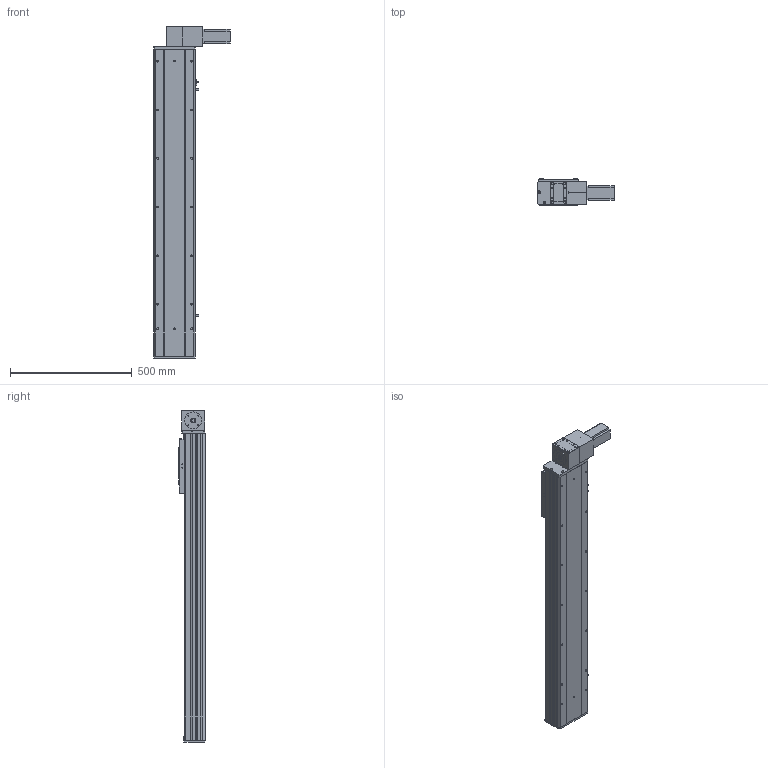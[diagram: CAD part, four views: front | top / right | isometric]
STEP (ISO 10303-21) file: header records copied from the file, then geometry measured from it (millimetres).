
FILE_DESCRIPTION (( 'STEP AP203' ), '1' );
FILE_NAME ('Y170CB-D105-S950-BD-P400W.STEP', '2020-02-20T08:31:25', ( '微软用户' ), ( '微软中国' ), 'SwSTEP 2.0', 'SolidWorks 2017', '' );
FILE_SCHEMA (( 'CONFIG_CONTROL_DESIGN' ));
Length unit declared in the file: millimetre
Products named in the file (16): 70C--詩湍揤踡え-; 70B喘謫眊----; 70CB--耜裔; 0B薊粣ん眊-400W--; Y170CB-D105-S950-BD-P400W; 70C-雄赽釱-奻-; 0C--雄赽釱俋欶-170; B-源倛裔啣; 70CB-詩湍--; san松下电机400不带刹车----; 70CB-掛极-; Y100-135俋离換覜ん--; --70CB --喘謫眊楊擘啣-; Y170CB-陔俋离換覜結え---; 70CB-耜裔啣-; Y1埴倛裔
Assembly tree (19 placements, depth 2):
  Y170CB-D105-S950-BD-P400W
    B-源倛裔啣
    san松下电机400不带刹车----
    70CB-掛极-
    --70CB --喘謫眊楊擘啣-
    70CB-耜裔啣-  x2
    70C--詩湍揤踡え-  x2
    70CB--耜裔
    70C-雄赽釱-奻-
    0C--雄赽釱俋欶-170
    70CB-詩湍--
    Y100-135俋离換覜ん--  x3
    Y170CB-陔俋离換覜結え---
    Y1埴倛裔
    70B喘謫眊----
    0B薊粣ん眊-400W--
Bounding box: 313.5 x 107 x 1366 mm (x, y, z)
Volume: 6629690.7 mm3; surface area: 2244278.2 mm2
Topology: 19 solids, 19 shells, 920 faces, 2426 edges, 1608 vertices
Faces by surface type: cylinder 474, plane 422, cone 24
Entity records: 28719 total; most frequent: CARTESIAN_POINT 5326, DIRECTION 4671, ORIENTED_EDGE 4334, EDGE_CURVE 2167, AXIS2_PLACEMENT_3D 1721, VERTEX_POINT 1438, LINE 1229, VECTOR 1229
